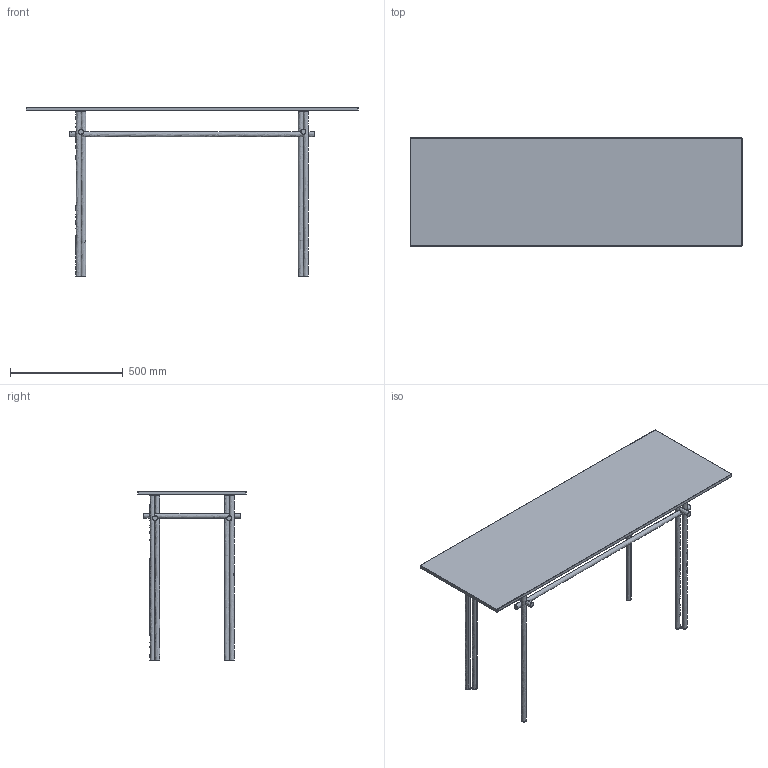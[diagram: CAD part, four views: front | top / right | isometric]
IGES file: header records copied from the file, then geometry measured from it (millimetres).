
Global section: file name: Z:\3D_HQ\2023\consolle-Wanders\xRNDR\consolle-Wanders.igs; native system: Rhinoceros ( Aug 11 2021 ); preprocessor: Trout Lake IGES 012 Aug 11 2021; date: 230313.174101; units: millimetre
Bounding box: 1470 x 480 x 751.03 mm (x, y, z)
Surface area: 2103455.4 mm2 (no closed solid volume)
Topology: 0 solids, 0 shells, 350 faces, 50454 edges, 50446 vertices
Faces by surface type: bspline 350
